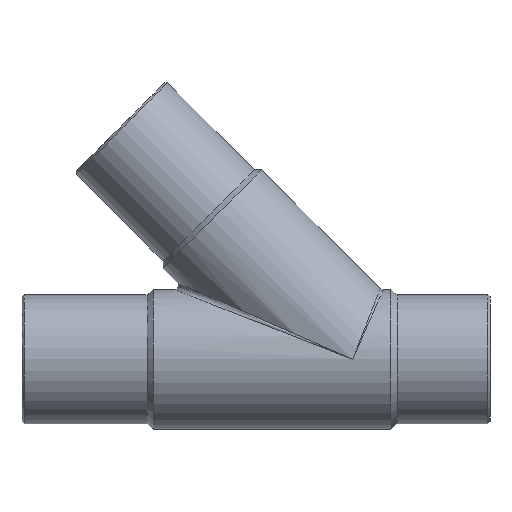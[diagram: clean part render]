
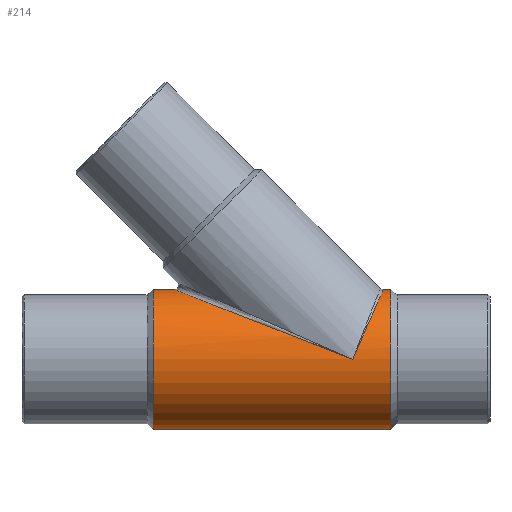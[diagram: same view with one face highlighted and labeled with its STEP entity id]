
A CAD part, front view. The second image highlights one B-rep face of the part: STEP entity #214.
In plain terms, the highlighted cylindrical face has radius 67.5 mm (diameter 135 mm), a full revolution.
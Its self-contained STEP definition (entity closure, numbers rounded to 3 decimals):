
#33=CIRCLE('',#250,67.5);
#34=CIRCLE('',#253,67.5);
#50=ORIENTED_EDGE('',*,*,#92,.T.);
#51=ORIENTED_EDGE('',*,*,#93,.T.);
#52=ORIENTED_EDGE('',*,*,#94,.T.);
#53=ORIENTED_EDGE('',*,*,#95,.F.);
#92=EDGE_CURVE('',#113,#113,#33,.T.);
#93=EDGE_CURVE('',#114,#115,#130,.T.);
#94=EDGE_CURVE('',#115,#114,#131,.T.);
#95=EDGE_CURVE('',#116,#116,#34,.T.);
#113=VERTEX_POINT('',#369);
#114=VERTEX_POINT('',#371);
#115=VERTEX_POINT('',#372);
#116=VERTEX_POINT('',#375);
#130=ELLIPSE('',#251,185.345,67.5);
#131=ELLIPSE('',#252,73.711,67.5);
#137=EDGE_LOOP('',(#50));
#138=EDGE_LOOP('',(#51,#52));
#139=EDGE_LOOP('',(#53));
#173=FACE_BOUND('',#137,.T.);
#174=FACE_BOUND('',#138,.T.);
#175=FACE_BOUND('',#139,.T.);
#207=CYLINDRICAL_SURFACE('',#249,67.5);
#214=ADVANCED_FACE('',(#173,#174,#175),#207,.T.);
#249=AXIS2_PLACEMENT_3D('',#367,#293,#294);
#250=AXIS2_PLACEMENT_3D('',#368,#295,#296);
#251=AXIS2_PLACEMENT_3D('',#370,#297,#298);
#252=AXIS2_PLACEMENT_3D('',#373,#299,#300);
#253=AXIS2_PLACEMENT_3D('',#374,#301,#302);
#293=DIRECTION('',(-1.,0.,0.));
#294=DIRECTION('',(0.,0.,1.));
#295=DIRECTION('',(-1.,0.,0.));
#296=DIRECTION('',(0.,0.,1.));
#297=DIRECTION('',(-0.364,0.,-0.931));
#298=DIRECTION('',(-0.931,0.,0.364));
#299=DIRECTION('',(0.916,0.,-0.402));
#300=DIRECTION('',(0.402,0.,0.916));
#301=DIRECTION('',(-1.,0.,0.));
#302=DIRECTION('',(0.,0.,1.));
#367=CARTESIAN_POINT('',(-60.,0.,0.));
#368=CARTESIAN_POINT('',(130.5,0.,0.));
#369=CARTESIAN_POINT('',(130.5,0.,67.5));
#370=CARTESIAN_POINT('',(93.541,0.,0.));
#371=CARTESIAN_POINT('',(93.541,-67.5,0.));
#372=CARTESIAN_POINT('',(93.541,67.5,0.));
#373=CARTESIAN_POINT('',(93.541,0.,0.));
#374=CARTESIAN_POINT('',(-99.5,0.,0.));
#375=CARTESIAN_POINT('',(-99.5,0.,67.5));
